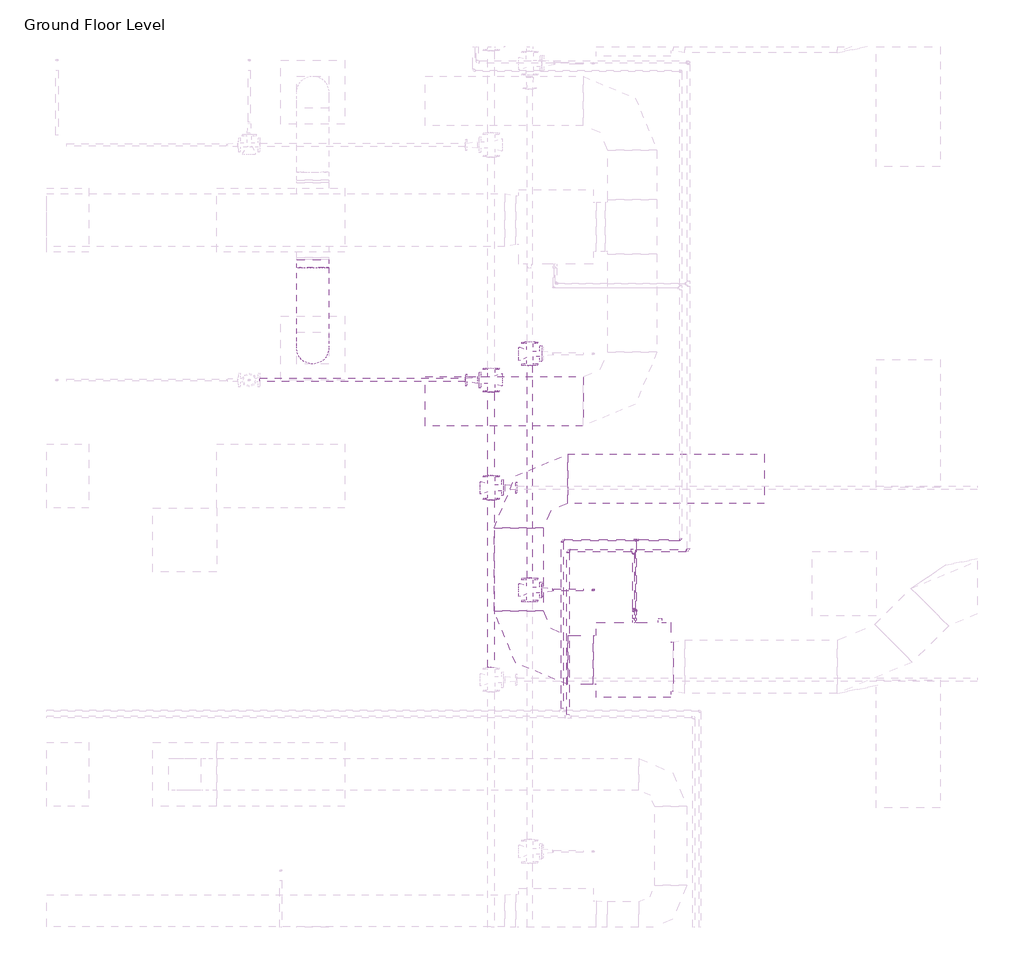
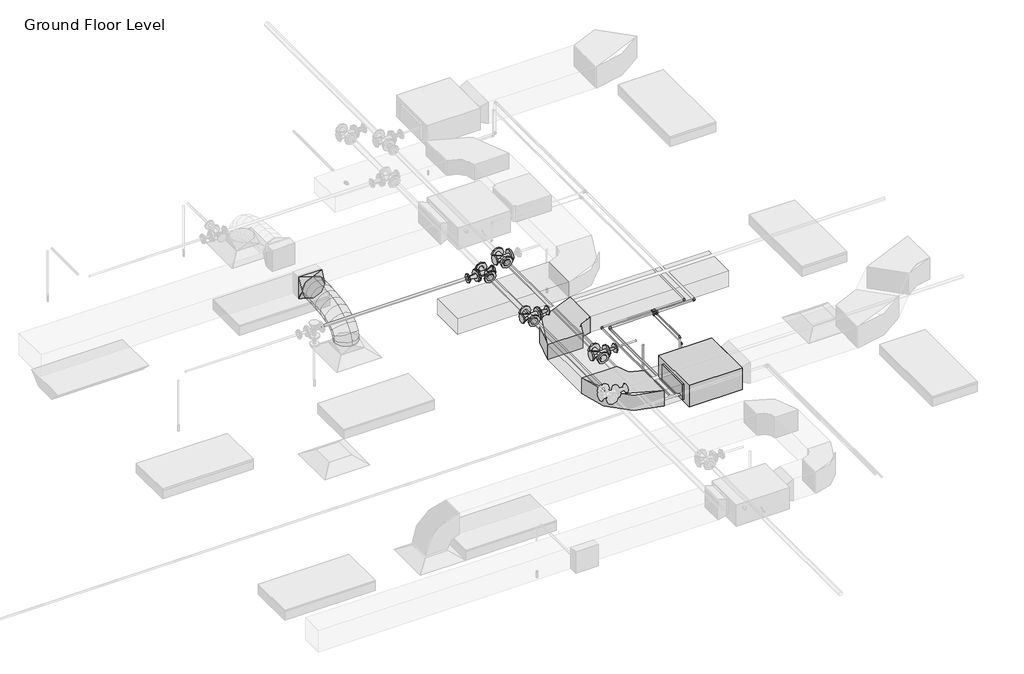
# One storey, part 60 of 74: 20 pipe fittings, 19 pipe segments, 5 duct segments, 3 duct fittings, 1 fire suppression terminal, 1 proxy.
"""IFC4 building model written with IfcOpenShell, lengths in millimetres."""

from ifc_helpers import new_model, si_unit, point, frame, frame_2d, origin, place, context, project, spatial, polyline, circle_curve, ellipse_curve, trimmed, segment, composite_curve, outline, extrude, transform, mapped, element, save
from ifc_brep_helpers import plane_surface, cylinder_surface, advanced_brep
from components import fcu_daikin_iu_bad131e0, m_rectangular_elbow_radius_1_w_54c96895, m_rectangular_to_round_transition_angle_45_degree_641efff0, m_sprinkler_pendent_15_mm_pendent_06fcbd8e, m_elbow_generic_standard_a088f956, m_elbow_generic_standard_2a704253, m_elbow_generic_standard_73005802, m_elbow_generic_standard_bb5ffebe, m_reducer_flanged_cs_class_150_standard_83138b42, m_reducer_flanged_cs_class_150_standard_a7631c35, m_reducer_flanged_cs_class_150_standard_5e9b2cee, m_tee_generic_standard_cdc1cff5, m_tee_generic_standard_bbfc025c, m_tee_round_base_flanged_cs_class_150_standard_dd767e04, m_tee_round_base_flanged_cs_class_150_standard_ab36f383, m_transition_generic_standard_e9aec4dd, m_transition_generic_standard_c2658a33

model = new_model("IFC4")

# Units and contexts
model_context = context("Model", 3, world=origin())
ifc_project = project(units=[si_unit("LENGTHUNIT", "METRE", prefix="MILLI")], contexts=[model_context])

# Site, building, storey
site = spatial("IfcSite", under=ifc_project)
building = spatial("IfcBuilding", under=site)
storey = spatial("IfcBuildingStorey", under=building, Name="Ground Floor Level", Elevation=900.0)

# Proxy
placement = place(None, origin())
fcu_daikin_iu_shape = fcu_daikin_iu_bad131e0(model_context)
element("IfcBuildingElementProxy", 1, Name="FCU-DAIKIN IU : 4.5kW, 230V/50Hz/1Ph", ObjectType="FCU-DAIKIN IU : 4.5kW, 230V/50Hz/1Ph", at=placement, inside=storey, context=model_context, shape_type="MappedRepresentation", body=[
    mapped(fcu_daikin_iu_shape, transform((6968.8139492, 9.6779527, 3934.0932729), x_axis=(0.0, 1.0, 0.0), y_axis=(-1.0, 0.0, 0.0), z_axis=(0.0, 0.0, 1.0))),
])

# Duct fittings
m_rectangular_elbow_radius_1_w_shape = m_rectangular_elbow_radius_1_w_54c96895(model_context)
element("IfcDuctFitting", 2, ObjectType="M_Rectangular Elbow - Radius : 1 W", at=placement, inside=storey, context=model_context, shape_type="MappedRepresentation", body=[
    mapped(m_rectangular_elbow_radius_1_w_shape, transform((5893.4139492, 9.6779527, 4075.2932729), x_axis=(0.0, -1.0, 0.0), y_axis=(1.0, 0.0, 0.0), z_axis=(0.0, 0.0, 1.0))),
])
element("IfcDuctFitting", 3, ObjectType="M_Rectangular Elbow - Radius : 1 W", at=placement, inside=storey, context=model_context, shape_type="MappedRepresentation", body=[
    mapped(m_rectangular_elbow_radius_1_w_shape, transform((5893.4139492, 1709.6783949, 4075.2932729), x_axis=(-1.0, 0.0, 0.0), y_axis=(0.0, -1.0, 0.0), z_axis=(0.0, 0.0, 1.0))),
])
m_rectangular_to_round_transition_angle_45_degree_shape = m_rectangular_to_round_transition_angle_45_degree_641efff0(model_context)
element("IfcDuctFitting", 4, ObjectType="M_Rectangular to Round Transition - Angle : 45 Degree", at=placement, inside=storey, context=model_context, shape_type="MappedRepresentation", body=[
    mapped(m_rectangular_to_round_transition_angle_45_degree_shape, transform((3962.7672395, 3762.5555369, 4099.9957478), x_axis=(0.0, -1.0, 0.0), y_axis=(1.0, 0.0, 0.0), z_axis=(0.0, 0.0, 1.0))),
])

# Duct segments
element("IfcDuctSegment", 5, ObjectType="Flex - Round", at=placement, inside=storey, context=model_context, shape_type="AdvancedBrep", body=[
    advanced_brep(
    [(4112.7672395, 2935.2153534, 3826.6), (3962.7672395, 2785.2153534, 3826.6), (3812.7672395, 2935.2153534, 3826.6), (3962.7672395, 3085.2153534, 3826.6), (4112.7672395, 2935.2153534, 3857.9378899), (3962.7672395, 2785.2153534, 3883.5813304), (3812.7672395, 2935.2153534, 3857.9378899), (3962.7672395, 3085.2153534, 3832.2944495), (4112.7672395, 2952.2314038, 3906.2506504), (3962.7672395, 2818.4936927, 3978.0667363), (3812.7672395, 2952.2314038, 3906.2506504), (3962.7672395, 3085.969115, 3834.4345644), (4112.7672395, 2999.4156052, 3968.7111185), (3962.7672395, 2895.2104338, 4079.6211427), (3812.7672395, 2999.4156052, 3968.7111185), (3962.7672395, 3103.6207766, 3857.8010943), (4112.7672395, 3070.9720324, 4016.0693384), (3962.7672395, 3002.0391237, 4150.3236188), (3812.7672395, 3070.9720324, 4016.0693384), (3962.7672395, 3139.9049411, 3881.8150579), (4112.7672395, 3161.1047605, 4050.413244), (3962.7672395, 3117.545251, 4194.3357287), (3812.7672395, 3161.1047605, 4050.413244), (3962.7672395, 3204.66427, 3906.4907592), (4112.7672395, 3264.0178643, 4073.8307693), (3962.7672395, 3237.4581287, 4221.6214946), (3812.7672395, 3264.0178643, 4073.8307693), (3962.7672395, 3290.5775999, 3926.0400441), (4112.7672395, 3373.9154189, 4088.4098484), (3962.7672395, 3358.7655495, 4237.7142137), (3812.7672395, 3373.9154189, 4088.4098484), (3962.7672395, 3389.0652883, 3939.1054831), (4112.7672395, 3485.0014992, 4096.2384151), (3962.7672395, 3477.4969747, 4246.0815706), (3812.7672395, 3485.0014992, 4096.2384151), (3962.7672395, 3492.5060238, 3946.3952596), (4112.7672395, 3591.4801802, 4099.4044036), (3962.7672395, 3588.7891594, 4249.3906816), (3812.7672395, 3591.4801802, 4099.4044036), (3962.7672395, 3594.1712011, 3949.4181256), (4112.7672395, 3687.5555369, 4099.9957478), (3962.7672395, 3688.47877, 3949.998589), (3812.7672395, 3687.5555369, 4099.9957478), (3962.7672395, 3686.6323039, 4249.9929065)],
    [
        (0, 1, circle_curve(frame((3962.7672395, 2935.2153534, 3826.6), z_axis=(0.0, 0.0, -1.0), x_axis=(1.0, 0.0, 0.0)), 150.0)),
        (1, 2, circle_curve(frame((3962.7672395, 2935.2153534, 3826.6), z_axis=(0.0, 0.0, -1.0), x_axis=(1.0, 0.0, 0.0)), 150.0)),
        (2, 3, circle_curve(frame((3962.7672395, 2935.2153534, 3826.6), z_axis=(0.0, 0.0, -1.0), x_axis=(1.0, 0.0, 0.0)), 150.0)),
        (3, 0, circle_curve(frame((3962.7672395, 2935.2153534, 3826.6), z_axis=(0.0, 0.0, -1.0), x_axis=(1.0, 0.0, 0.0)), 150.0)),
        (0, 4),
        (4, 5, ellipse_curve(frame((3962.7672395, 2935.2153534, 3857.9378899), z_axis=(0.0, -0.1685115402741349, -0.9856996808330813), x_axis=(0.0, 0.9856996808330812, -0.1685115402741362)), 152.1761678, 150.0)),
        (5, 1),
        (5, 6, ellipse_curve(frame((3962.7672395, 2935.2153534, 3857.9378899), z_axis=(0.0, -0.1685115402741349, -0.9856996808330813), x_axis=(0.0, 0.9856996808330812, -0.1685115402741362)), 152.1761678, 150.0)),
        (6, 2),
        (6, 7, ellipse_curve(frame((3962.7672395, 2935.2153534, 3857.9378899), z_axis=(0.0, -0.1685115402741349, -0.9856996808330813), x_axis=(0.0, 0.9856996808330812, -0.1685115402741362)), 152.1761678, 150.0)),
        (7, 3),
        (7, 4, ellipse_curve(frame((3962.7672395, 2935.2153534, 3857.9378899), z_axis=(0.0, -0.1685115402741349, -0.9856996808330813), x_axis=(0.0, 0.9856996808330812, -0.1685115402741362)), 152.1761678, 150.0)),
        (4, 8),
        (8, 9, ellipse_curve(frame((3962.7672395, 2952.2314038, 3906.2506504), z_axis=(0.0, -0.47309586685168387, -0.8810109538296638), x_axis=(0.0, 0.8810109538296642, -0.4730958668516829)), 151.8002819, 150.0)),
        (9, 5),
        (9, 10, ellipse_curve(frame((3962.7672395, 2952.2314038, 3906.2506504), z_axis=(0.0, -0.47309586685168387, -0.8810109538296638), x_axis=(0.0, 0.8810109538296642, -0.4730958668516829)), 151.8002819, 150.0)),
        (10, 6),
        (10, 11, ellipse_curve(frame((3962.7672395, 2952.2314038, 3906.2506504), z_axis=(0.0, -0.47309586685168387, -0.8810109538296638), x_axis=(0.0, 0.8810109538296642, -0.4730958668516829)), 151.8002819, 150.0)),
        (11, 7),
        (11, 8, ellipse_curve(frame((3962.7672395, 2952.2314038, 3906.2506504), z_axis=(0.0, -0.47309586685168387, -0.8810109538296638), x_axis=(0.0, 0.8810109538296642, -0.4730958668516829)), 151.8002819, 150.0)),
        (8, 12),
        (12, 13, ellipse_curve(frame((3962.7672395, 2999.4156052, 3968.7111185), z_axis=(0.0, -0.7287924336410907, -0.68473468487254), x_axis=(0.0, 0.6847346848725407, -0.7287924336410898)), 152.1832817, 150.0)),
        (13, 9),
        (13, 14, ellipse_curve(frame((3962.7672395, 2999.4156052, 3968.7111185), z_axis=(0.0, -0.7287924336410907, -0.68473468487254), x_axis=(0.0, 0.6847346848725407, -0.7287924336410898)), 152.1832817, 150.0)),
        (14, 10),
        (14, 15, ellipse_curve(frame((3962.7672395, 2999.4156052, 3968.7111185), z_axis=(0.0, -0.7287924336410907, -0.68473468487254), x_axis=(0.0, 0.6847346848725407, -0.7287924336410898)), 152.1832817, 150.0)),
        (15, 11),
        (15, 12, ellipse_curve(frame((3962.7672395, 2999.4156052, 3968.7111185), z_axis=(0.0, -0.7287924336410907, -0.68473468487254), x_axis=(0.0, 0.6847346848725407, -0.7287924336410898)), 152.1832817, 150.0)),
        (12, 16),
        (16, 17, ellipse_curve(frame((3962.7672395, 3070.9720324, 4016.0693384), z_axis=(0.0, -0.8895898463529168, -0.4567602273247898), x_axis=(0.0, 0.45676022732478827, -0.8895898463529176)), 150.9170558, 150.0)),
        (17, 13),
        (17, 18, ellipse_curve(frame((3962.7672395, 3070.9720324, 4016.0693384), z_axis=(0.0, -0.8895898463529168, -0.4567602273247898), x_axis=(0.0, 0.45676022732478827, -0.8895898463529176)), 150.9170558, 150.0)),
        (18, 14),
        (18, 19, ellipse_curve(frame((3962.7672395, 3070.9720324, 4016.0693384), z_axis=(0.0, -0.8895898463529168, -0.4567602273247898), x_axis=(0.0, 0.45676022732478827, -0.8895898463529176)), 150.9170558, 150.0)),
        (19, 15),
        (19, 16, ellipse_curve(frame((3962.7672395, 3070.9720324, 4016.0693384), z_axis=(0.0, -0.8895898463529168, -0.4567602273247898), x_axis=(0.0, 0.45676022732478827, -0.8895898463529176)), 150.9170558, 150.0)),
        (16, 20),
        (20, 21, ellipse_curve(frame((3962.7672395, 3161.1047605, 4050.413244), z_axis=(0.0, -0.9571228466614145, -0.28968233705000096), x_axis=(0.0, 0.2896823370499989, -0.9571228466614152)), 150.3699188, 150.0)),
        (21, 17),
        (21, 22, ellipse_curve(frame((3962.7672395, 3161.1047605, 4050.413244), z_axis=(0.0, -0.9571228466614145, -0.28968233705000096), x_axis=(0.0, 0.2896823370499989, -0.9571228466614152)), 150.3699188, 150.0)),
        (22, 18),
        (22, 23, ellipse_curve(frame((3962.7672395, 3161.1047605, 4050.413244), z_axis=(0.0, -0.9571228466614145, -0.28968233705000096), x_axis=(0.0, 0.2896823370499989, -0.9571228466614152)), 150.3699188, 150.0)),
        (23, 19),
        (23, 20, ellipse_curve(frame((3962.7672395, 3161.1047605, 4050.413244), z_axis=(0.0, -0.9571228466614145, -0.28968233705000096), x_axis=(0.0, 0.2896823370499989, -0.9571228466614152)), 150.3699188, 150.0)),
        (20, 24),
        (24, 25, ellipse_curve(frame((3962.7672395, 3264.0178643, 4073.8307693), z_axis=(0.0, -0.9842327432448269, -0.17687822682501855), x_axis=(0.0, 0.17687822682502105, -0.9842327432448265)), 150.1583099, 150.0)),
        (25, 21),
        (25, 26, ellipse_curve(frame((3962.7672395, 3264.0178643, 4073.8307693), z_axis=(0.0, -0.9842327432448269, -0.17687822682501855), x_axis=(0.0, 0.17687822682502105, -0.9842327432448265)), 150.1583099, 150.0)),
        (26, 22),
        (26, 27, ellipse_curve(frame((3962.7672395, 3264.0178643, 4073.8307693), z_axis=(0.0, -0.9842327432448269, -0.17687822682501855), x_axis=(0.0, 0.17687822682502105, -0.9842327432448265)), 150.1583099, 150.0)),
        (27, 23),
        (27, 24, ellipse_curve(frame((3962.7672395, 3264.0178643, 4073.8307693), z_axis=(0.0, -0.9842327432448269, -0.17687822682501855), x_axis=(0.0, 0.17687822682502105, -0.9842327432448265)), 150.1583099, 150.0)),
        (24, 28),
        (28, 29, ellipse_curve(frame((3962.7672395, 3373.9154189, 4088.4098484), z_axis=(0.0, -0.9948913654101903, -0.10095133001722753), x_axis=(0.0, 0.10095133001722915, -0.9948913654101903)), 150.0710233, 150.0)),
        (29, 25),
        (29, 30, ellipse_curve(frame((3962.7672395, 3373.9154189, 4088.4098484), z_axis=(0.0, -0.9948913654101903, -0.10095133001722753), x_axis=(0.0, 0.10095133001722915, -0.9948913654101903)), 150.0710233, 150.0)),
        (30, 26),
        (30, 31, ellipse_curve(frame((3962.7672395, 3373.9154189, 4088.4098484), z_axis=(0.0, -0.9948913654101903, -0.10095133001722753), x_axis=(0.0, 0.10095133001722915, -0.9948913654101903)), 150.0710233, 150.0)),
        (31, 27),
        (31, 28, ellipse_curve(frame((3962.7672395, 3373.9154189, 4088.4098484), z_axis=(0.0, -0.9948913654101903, -0.10095133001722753), x_axis=(0.0, 0.10095133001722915, -0.9948913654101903)), 150.0710233, 150.0)),
        (28, 32),
        (32, 33, ellipse_curve(frame((3962.7672395, 3485.0014992, 4096.2384151), z_axis=(0.0, -0.9987482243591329, -0.05001983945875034), x_axis=(0.0, 0.05001983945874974, -0.9987482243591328)), 150.0309606, 150.0)),
        (33, 29),
        (33, 34, ellipse_curve(frame((3962.7672395, 3485.0014992, 4096.2384151), z_axis=(0.0, -0.9987482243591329, -0.05001983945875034), x_axis=(0.0, 0.05001983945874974, -0.9987482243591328)), 150.0309606, 150.0)),
        (34, 30),
        (34, 35, ellipse_curve(frame((3962.7672395, 3485.0014992, 4096.2384151), z_axis=(0.0, -0.9987482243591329, -0.05001983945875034), x_axis=(0.0, 0.05001983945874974, -0.9987482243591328)), 150.0309606, 150.0)),
        (35, 31),
        (35, 32, ellipse_curve(frame((3962.7672395, 3485.0014992, 4096.2384151), z_axis=(0.0, -0.9987482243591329, -0.05001983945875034), x_axis=(0.0, 0.05001983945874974, -0.9987482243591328)), 150.0309606, 150.0)),
        (32, 36),
        (36, 37, ellipse_curve(frame((3962.7672395, 3591.4801802, 4099.4044036), z_axis=(0.0, -0.9998390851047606, -0.017938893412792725), x_axis=(0.0, 0.017938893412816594, -0.99983908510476)), 150.0104169, 150.0)),
        (37, 33),
        (37, 38, ellipse_curve(frame((3962.7672395, 3591.4801802, 4099.4044036), z_axis=(0.0, -0.9998390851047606, -0.017938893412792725), x_axis=(0.0, 0.017938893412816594, -0.99983908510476)), 150.0104169, 150.0)),
        (38, 34),
        (38, 39, ellipse_curve(frame((3962.7672395, 3591.4801802, 4099.4044036), z_axis=(0.0, -0.9998390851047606, -0.017938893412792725), x_axis=(0.0, 0.017938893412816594, -0.99983908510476)), 150.0104169, 150.0)),
        (39, 35),
        (39, 36, ellipse_curve(frame((3962.7672395, 3591.4801802, 4099.4044036), z_axis=(0.0, -0.9998390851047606, -0.017938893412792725), x_axis=(0.0, 0.017938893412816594, -0.99983908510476)), 150.0104169, 150.0)),
        (40, 41, circle_curve(frame((3962.7672395, 3687.5555369, 4099.9957478), z_axis=(0.0, 0.9999810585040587, 0.006154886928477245), x_axis=(1.0, 0.0, 0.0)), 150.0)),
        (41, 42, circle_curve(frame((3962.7672395, 3687.5555369, 4099.9957478), z_axis=(0.0, 0.9999810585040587, 0.006154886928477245), x_axis=(1.0, 0.0, 0.0)), 150.0)),
        (42, 43, circle_curve(frame((3962.7672395, 3687.5555369, 4099.9957478), z_axis=(0.0, 0.9999810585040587, 0.006154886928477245), x_axis=(1.0, 0.0, 0.0)), 150.0)),
        (43, 40, circle_curve(frame((3962.7672395, 3687.5555369, 4099.9957478), z_axis=(0.0, 0.9999810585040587, 0.006154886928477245), x_axis=(1.0, 0.0, 0.0)), 150.0)),
        (36, 40),
        (43, 37),
        (42, 38),
        (41, 39),
    ],
    [
        plane_surface(frame((3962.7672395, 2785.2153534, 3826.6), z_axis=(0.0, 0.0, -1.0), x_axis=(1.0, 0.0, 0.0))),
        cylinder_surface(frame((3962.7672395, 2935.2153534, 3826.6), z_axis=(0.0, 0.0, -1.0), x_axis=(1.0, 0.0, 0.0)), 150.0),
        cylinder_surface(frame((3962.7672395, 2935.2153534, 3857.9378899), z_axis=(0.0, -0.33220354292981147, -0.9432077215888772), x_axis=(1.0, 0.0, 0.0)), 150.0),
        cylinder_surface(frame((3962.7672395, 2952.2314038, 3906.2506504), z_axis=(0.0, -0.6027667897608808, -0.7979174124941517), x_axis=(1.0, 0.0, 0.0)), 150.0),
        cylinder_surface(frame((3962.7672395, 2999.4156052, 3968.7111185), z_axis=(0.0, -0.833906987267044, -0.5519050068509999), x_axis=(1.0, 0.0, 0.0)), 150.0),
        cylinder_surface(frame((3962.7672395, 3070.9720324, 4016.0693384), z_axis=(0.0, -0.9344614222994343, -0.35606439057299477), x_axis=(1.0, 0.0, 0.0)), 150.0),
        cylinder_surface(frame((3962.7672395, 3161.1047605, 4050.413244), z_axis=(0.0, -0.9750751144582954, -0.22187501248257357), x_axis=(1.0, 0.0, 0.0)), 150.0),
        cylinder_surface(frame((3962.7672395, 3264.0178643, 4073.8307693), z_axis=(0.0, -0.9913150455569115, -0.1315084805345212), x_axis=(1.0, 0.0, 0.0)), 150.0),
        cylinder_surface(frame((3962.7672395, 3373.9154189, 4088.4098484), z_axis=(0.0, -0.997525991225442, -0.07029862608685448), x_axis=(1.0, 0.0, 0.0)), 150.0),
        cylinder_surface(frame((3962.7672395, 3485.0014992, 4096.2384151), z_axis=(0.0, -0.9995582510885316, -0.029720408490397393), x_axis=(1.0, 0.0, 0.0)), 150.0),
        plane_surface(frame((3962.7672395, 3686.6323039, 4249.9929065), z_axis=(0.0, 0.9999810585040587, 0.006154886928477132), x_axis=(1.0, 0.0, 0.0))),
        cylinder_surface(frame((3962.7672395, 3591.4801802, 4099.4044036), z_axis=(0.0, -0.9999810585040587, -0.006154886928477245), x_axis=(1.0, 0.0, 0.0)), 150.0),
    ],
    [
        (0, [[1, 2, 3, 4]]),
        (1, [[-1, 5, 6, 7]]),
        (1, [[-2, -7, 8, 9]]),
        (1, [[-3, -9, 10, 11]]),
        (1, [[-4, -11, 12, -5]]),
        (2, [[-6, 13, 14, 15]]),
        (2, [[-8, -15, 16, 17]]),
        (2, [[-10, -17, 18, 19]]),
        (2, [[-12, -19, 20, -13]]),
        (3, [[-14, 21, 22, 23]]),
        (3, [[-16, -23, 24, 25]]),
        (3, [[-18, -25, 26, 27]]),
        (3, [[-20, -27, 28, -21]]),
        (4, [[-22, 29, 30, 31]]),
        (4, [[-24, -31, 32, 33]]),
        (4, [[-26, -33, 34, 35]]),
        (4, [[-28, -35, 36, -29]]),
        (5, [[-30, 37, 38, 39]]),
        (5, [[-32, -39, 40, 41]]),
        (5, [[-34, -41, 42, 43]]),
        (5, [[-36, -43, 44, -37]]),
        (6, [[-38, 45, 46, 47]]),
        (6, [[-40, -47, 48, 49]]),
        (6, [[-42, -49, 50, 51]]),
        (6, [[-44, -51, 52, -45]]),
        (7, [[-46, 53, 54, 55]]),
        (7, [[-48, -55, 56, 57]]),
        (7, [[-50, -57, 58, 59]]),
        (7, [[-52, -59, 60, -53]]),
        (8, [[-54, 61, 62, 63]]),
        (8, [[-56, -63, 64, 65]]),
        (8, [[-58, -65, 66, 67]]),
        (8, [[-60, -67, 68, -61]]),
        (9, [[-62, 69, 70, 71]]),
        (9, [[-64, -71, 72, 73]]),
        (9, [[-66, -73, 74, 75]]),
        (9, [[-68, -75, 76, -69]]),
        (10, [[77, 78, 79, 80]]),
        (11, [[-70, 81, -80, 82]]),
        (11, [[-72, -82, -79, 83]]),
        (11, [[-74, -83, -78, 84]]),
        (11, [[-76, -84, -77, -81]]),
    ],
),
])
element("IfcDuctSegment", 6, ObjectType="Radius Elbows / Taps", at=placement, inside=storey, context=model_context, shape_type="SweptSolid", body=[
    extrude(outline(polyline([(6593.4139492, 240.6154527), (6593.4139492, -221.2595473), (6355.2889492, -221.2595473), (6355.2889492, 240.6154527), (6593.4139492, 240.6154527)])), frame((0.0, 0.0, 3968.1432729), z_axis=(0.0, 0.0, 1.0), x_axis=(1.0, 0.0, 0.0)), (0.0, 0.0, 1.0), 214.3),
])
element("IfcDuctSegment", 7, ObjectType="Radius Elbows / Taps", at=placement, inside=storey, context=model_context, shape_type="SweptSolid", body=[
    extrude(outline(polyline([(6124.3514492, 471.5529527), (5662.4764492, 471.5529527), (5662.4764492, 1247.8033949), (6124.3514492, 1247.8033949), (6124.3514492, 471.5529527)])), frame((0.0, 0.0, 3968.1432729), z_axis=(0.0, 0.0, 1.0), x_axis=(1.0, 0.0, 0.0)), (0.0, 0.0, 1.0), 214.3),
])
element("IfcDuctSegment", 8, ObjectType="Radius Elbows / Taps", at=placement, inside=storey, context=model_context, shape_type="SweptSolid", body=[
    extrude(outline(polyline([(6355.2889492, 1478.7408949), (6355.2889492, 1940.6158949), (8193.4139492, 1940.6158949), (8193.4139492, 1478.7408949), (6355.2889492, 1478.7408949)])), frame((0.0, 0.0, 3968.1432729), z_axis=(0.0, 0.0, 1.0), x_axis=(1.0, 0.0, 0.0)), (0.0, 0.0, 1.0), 214.3),
])
element("IfcDuctSegment", 9, ObjectType="Radius Elbows / Taps", at=placement, inside=storey, context=model_context, shape_type="SweptSolid", body=[
    extrude(outline(polyline([(6496.8139492, 2666.5824167), (6496.8139492, 2204.5824167), (5018.8139492, 2204.5824167), (5018.8139492, 2666.5824167), (6496.8139492, 2666.5824167)])), frame((0.0, 0.0, 3968.2875), z_axis=(0.0, 0.0, 1.0), x_axis=(1.0, 0.0, 0.0)), (0.0, 0.0, 1.0), 214.0),
])

# Fire suppression terminal
m_sprinkler_pendent_15_mm_pendent_shape = m_sprinkler_pendent_15_mm_pendent_06fcbd8e(model_context)
element("IfcFireSuppressionTerminal", 10, ObjectType="M_Sprinkler - Pendent : 15 mm Pendent", at=placement, inside=storey, context=model_context, shape_type="MappedRepresentation", body=[
    mapped(m_sprinkler_pendent_15_mm_pendent_shape, transform((6592.5481019, 666.6492065, 3650.0), x_axis=(1.0, 0.0, 0.0), y_axis=(0.0, 1.0, 0.0), z_axis=(0.0, 0.0, 1.0))),
])

# Pipe fittings
m_elbow_generic_standard_shape = m_elbow_generic_standard_a088f956(model_context)
element("IfcPipeFitting", 11, ObjectType="M_Elbow - Generic : Standard", at=placement, inside=storey, context=model_context, shape_type="MappedRepresentation", body=[
    mapped(m_elbow_generic_standard_shape, transform((6968.8139492, 477.4658847, 4034.0932729), x_axis=(0.0, 1.0, 0.0), y_axis=(0.0, 0.0, 1.0), z_axis=(1.0, 0.0, 0.0))),
])
element("IfcPipeFitting", 12, ObjectType="M_Elbow - Generic : Standard", at=placement, inside=storey, context=model_context, shape_type="MappedRepresentation", body=[
    mapped(m_elbow_generic_standard_shape, transform((6968.8139492, 477.4658847, 4300.0), x_axis=(0.0, 0.0, 1.0), y_axis=(0.0, 1.0, 0.0), z_axis=(-1.0, 0.0, 0.0))),
])
m_elbow_generic_standard_2_shape = m_elbow_generic_standard_2a704253(model_context)
element("IfcPipeFitting", 13, ObjectType="M_Elbow - Generic : Standard", at=placement, inside=storey, context=model_context, shape_type="MappedRepresentation", body=[
    mapped(m_elbow_generic_standard_2_shape, transform((6993.8139492, 474.3157767, 4084.8932729), x_axis=(0.0, 1.0, 0.0), y_axis=(0.0, 0.0, 1.0), z_axis=(1.0, 0.0, 0.0))),
])
element("IfcPipeFitting", 14, ObjectType="M_Elbow - Generic : Standard", at=placement, inside=storey, context=model_context, shape_type="MappedRepresentation", body=[
    mapped(m_elbow_generic_standard_2_shape, transform((6993.8139492, 474.3157767, 4200.0), x_axis=(0.0, 0.0, 1.0), y_axis=(0.0, 1.0, 0.0), z_axis=(-1.0, 0.0, 0.0))),
])
element("IfcPipeFitting", 15, ObjectType="M_Elbow - Generic : Standard", at=placement, inside=storey, context=model_context, shape_type="MappedRepresentation", body=[
    mapped(m_elbow_generic_standard_2_shape, transform((6993.8139492, 1134.0185138, 4200.0), x_axis=(0.0, 0.0, -1.0), y_axis=(0.0, -1.0, 0.0), z_axis=(-1.0, 0.0, 0.0))),
])
m_elbow_generic_standard_3_shape = m_elbow_generic_standard_73005802(model_context)
element("IfcPipeFitting", 16, ObjectType="M_Elbow - Generic : Standard", at=placement, inside=storey, context=model_context, shape_type="MappedRepresentation", body=[
    mapped(m_elbow_generic_standard_3_shape, transform((6355.3210494, 1036.0098545, 4300.0), x_axis=(-1.0, 0.0, 0.0), y_axis=(0.0, -1.0, 0.0), z_axis=(0.0, 0.0, 1.0))),
])
element("IfcPipeFitting", 17, ObjectType="M_Elbow - Generic : Standard", at=placement, inside=storey, context=model_context, shape_type="MappedRepresentation", body=[
    mapped(m_elbow_generic_standard_3_shape, transform((7485.0672395, 1036.0098545, 4300.0), x_axis=(1.0, 0.0, 0.0), y_axis=(0.0, 1.0, 0.0), z_axis=(0.0, 0.0, 1.0))),
])
m_elbow_generic_standard_4_shape = m_elbow_generic_standard_bb5ffebe(model_context)
element("IfcPipeFitting", 18, ObjectType="M_Elbow - Generic : Standard", at=placement, inside=storey, context=model_context, shape_type="MappedRepresentation", body=[
    mapped(m_elbow_generic_standard_4_shape, transform((6302.4595152, 1134.0185138, 4265.0), x_axis=(-1.0, 0.0, 0.0), y_axis=(0.0, -1.0, 0.0), z_axis=(0.0, 0.0, 1.0))),
])
element("IfcPipeFitting", 19, ObjectType="M_Elbow - Generic : Standard", at=placement, inside=storey, context=model_context, shape_type="MappedRepresentation", body=[
    mapped(m_elbow_generic_standard_4_shape, transform((7412.2057053, 1134.0185138, 4265.0), x_axis=(1.0, 0.0, 0.0), y_axis=(0.0, 1.0, 0.0), z_axis=(0.0, 0.0, 1.0))),
])
m_reducer_flanged_cs_class_150_standard_shape = m_reducer_flanged_cs_class_150_standard_83138b42(model_context)
element("IfcPipeFitting", 20, ObjectType="M_Reducer - Flanged - CS - Class 150 : Standard", at=placement, inside=storey, context=model_context, shape_type="MappedRepresentation", body=[
    mapped(m_reducer_flanged_cs_class_150_standard_shape, transform((6109.3164057, 666.6492065, 4291.2754753), x_axis=(1.0, 0.0, 0.0), y_axis=(0.0, 0.0, -1.0), z_axis=(0.0, 1.0, 0.0))),
])
m_reducer_flanged_cs_class_150_standard_2_shape = m_reducer_flanged_cs_class_150_standard_a7631c35(model_context)
element("IfcPipeFitting", 21, ObjectType="M_Reducer - Flanged - CS - Class 150 : Standard", at=placement, inside=storey, context=model_context, shape_type="MappedRepresentation", body=[
    mapped(m_reducer_flanged_cs_class_150_standard_2_shape, transform((5749.869498, 1625.2153534, 4360.0), x_axis=(1.0, 0.0, 0.0), y_axis=(0.0, 0.0, 1.0), z_axis=(0.0, -1.0, 0.0))),
])
m_reducer_flanged_cs_class_150_standard_3_shape = m_reducer_flanged_cs_class_150_standard_5e9b2cee(model_context)
element("IfcPipeFitting", 22, ObjectType="M_Reducer - Flanged - CS - Class 150 : Standard", at=placement, inside=storey, context=model_context, shape_type="MappedRepresentation", body=[
    mapped(m_reducer_flanged_cs_class_150_standard_3_shape, transform((5521.869498, 2635.2153534, 4360.0), x_axis=(-1.0, 0.0, 0.0), y_axis=(0.0, 0.0, -1.0), z_axis=(0.0, -1.0, 0.0))),
])
m_tee_generic_standard_shape = m_tee_generic_standard_cdc1cff5(model_context)
element("IfcPipeFitting", 23, ObjectType="M_Tee - Generic : Standard", at=placement, inside=storey, context=model_context, shape_type="MappedRepresentation", body=[
    mapped(m_tee_generic_standard_shape, transform((6993.8139492, 1134.0185138, 4265.0), x_axis=(1.0, 0.0, 0.0), y_axis=(0.0, 0.0, 1.0), z_axis=(0.0, -1.0, 0.0))),
])
m_tee_generic_standard_2_shape = m_tee_generic_standard_bbfc025c(model_context)
element("IfcPipeFitting", 24, ObjectType="M_Tee - Generic : Standard", at=placement, inside=storey, context=model_context, shape_type="MappedRepresentation", body=[
    mapped(m_tee_generic_standard_2_shape, transform((6968.8139492, 1036.0098545, 4300.0), x_axis=(1.0, 0.0, 0.0), y_axis=(0.0, 1.0, 0.0), z_axis=(0.0, 0.0, 1.0))),
])
m_tee_round_base_flanged_cs_class_150_standard_shape = m_tee_round_base_flanged_cs_class_150_standard_dd767e04(model_context)
element("IfcPipeFitting", 25, ObjectType="M_Tee Round Base - Flanged - CS - Class 150 : Standard", at=placement, inside=storey, context=model_context, shape_type="MappedRepresentation", body=[
    mapped(m_tee_round_base_flanged_cs_class_150_standard_shape, transform((5635.869498, 1625.2153534, 4360.0), x_axis=(0.0, 1.0, 0.0), y_axis=(-1.0, 0.0, 0.0), z_axis=(0.0, 0.0, 1.0))),
])
element("IfcPipeFitting", 26, ObjectType="M_Tee Round Base - Flanged - CS - Class 150 : Standard", at=placement, inside=storey, context=model_context, shape_type="MappedRepresentation", body=[
    mapped(m_tee_round_base_flanged_cs_class_150_standard_shape, transform((5635.869498, 2635.2153534, 4360.0), x_axis=(0.0, 1.0, 0.0), y_axis=(1.0, 0.0, 0.0), z_axis=(0.0, 0.0, -1.0))),
])
m_tee_round_base_flanged_cs_class_150_standard_2_shape = m_tee_round_base_flanged_cs_class_150_standard_ab36f383(model_context)
element("IfcPipeFitting", 27, ObjectType="M_Tee Round Base - Flanged - CS - Class 150 : Standard", at=placement, inside=storey, context=model_context, shape_type="MappedRepresentation", body=[
    mapped(m_tee_round_base_flanged_cs_class_150_standard_2_shape, transform((5997.057812, 2881.5134565, 4291.0943441), x_axis=(0.0, 1.0, 0.0), y_axis=(-1.0, 0.0, 0.0), z_axis=(0.0, 0.0, 1.0))),
])
element("IfcPipeFitting", 28, ObjectType="M_Tee Round Base - Flanged - CS - Class 150 : Standard", at=placement, inside=storey, context=model_context, shape_type="MappedRepresentation", body=[
    mapped(m_tee_round_base_flanged_cs_class_150_standard_2_shape, transform((5997.057812, 666.6492065, 4291.0943441), x_axis=(0.0, 1.0, 0.0), y_axis=(-1.0, 0.0, 0.0), z_axis=(0.0, 0.0, 1.0))),
])
m_transition_generic_standard_shape = m_transition_generic_standard_e9aec4dd(model_context)
element("IfcPipeFitting", 29, ObjectType="M_Transition - Generic : Standard", at=placement, inside=storey, context=model_context, shape_type="MappedRepresentation", body=[
    mapped(m_transition_generic_standard_shape, transform((6968.8139492, 1010.6098545, 4300.0), x_axis=(0.0, -1.0, 0.0), y_axis=(1.0, 0.0, 0.0), z_axis=(0.0, 0.0, 1.0))),
])
m_transition_generic_standard_2_shape = m_transition_generic_standard_c2658a33(model_context)
element("IfcPipeFitting", 30, ObjectType="M_Transition - Generic : Standard", at=placement, inside=storey, context=model_context, shape_type="MappedRepresentation", body=[
    mapped(m_transition_generic_standard_2_shape, transform((6993.8139492, 1134.0185138, 4242.775), x_axis=(0.0, 0.0, -1.0), y_axis=(1.0, 0.0, 0.0), z_axis=(0.0, -1.0, 0.0))),
])

# Pipe segments
element("IfcPipeSegment", 31, ObjectType="Copper", at=placement, inside=storey, context=model_context, shape_type="SweptSolid", body=[
    extrude(outline(composite_curve([segment(trimmed(circle_curve(frame_2d((4265.0, 6302.4595152)), 8.1), [point((4265.0, 6294.3595152))], [point((4256.9, 6302.4595152))], False, "CARTESIAN"), True, "CONTINUOUS"), segment(trimmed(circle_curve(frame_2d((4265.0, 6302.4595152)), 8.1), [point((4256.9, 6302.4595152))], [point((4265.0, 6310.5595152))], False, "CARTESIAN"), True, "CONTINUOUS"), segment(trimmed(circle_curve(frame_2d((4265.0, 6302.4595152)), 8.1), [point((4265.0, 6310.5595152))], [point((4273.1, 6302.4595152))], False, "CARTESIAN"), True, "CONTINUOUS"), segment(trimmed(circle_curve(frame_2d((4265.0, 6302.4595152)), 8.1), [point((4273.1, 6302.4595152))], [point((4265.0, 6294.3595152))], False, "CARTESIAN"), True, "CONTINUOUS")], self_intersect=False)), frame((0.0, -443.7564862, 0.0), z_axis=(0.0, 1.0, 0.0), x_axis=(0.0, 0.0, 1.0)), (0.0, 0.0, 1.0), 1561.9),
])
element("IfcPipeSegment", 32, ObjectType="Copper", at=placement, inside=storey, context=model_context, shape_type="SweptSolid", body=[
    extrude(outline(composite_curve([segment(trimmed(circle_curve(frame_2d((4300.0, 6355.3210494)), 11.5), [point((4300.0, 6343.8210494))], [point((4288.5, 6355.3210494))], False, "CARTESIAN"), True, "CONTINUOUS"), segment(trimmed(circle_curve(frame_2d((4300.0, 6355.3210494)), 11.5), [point((4288.5, 6355.3210494))], [point((4300.0, 6366.8210494))], False, "CARTESIAN"), True, "CONTINUOUS"), segment(trimmed(circle_curve(frame_2d((4300.0, 6355.3210494)), 11.5), [point((4300.0, 6366.8210494))], [point((4311.5, 6355.3210494))], False, "CARTESIAN"), True, "CONTINUOUS"), segment(trimmed(circle_curve(frame_2d((4300.0, 6355.3210494)), 11.5), [point((4311.5, 6355.3210494))], [point((4300.0, 6343.8210494))], False, "CARTESIAN"), True, "CONTINUOUS")], self_intersect=False)), frame((0.0, -498.5901455, 0.0), z_axis=(0.0, 1.0, 0.0), x_axis=(0.0, 0.0, 1.0)), (0.0, 0.0, 1.0), 1515.55),
])
element("IfcPipeSegment", 33, ObjectType="Copper", at=placement, inside=storey, context=model_context, shape_type="SweptSolid", body=[
    extrude(outline(composite_curve([segment(trimmed(circle_curve(frame_2d((4200.0, 6993.8139492)), 3.35), [point((4200.0, 6997.1639492))], [point((4203.35, 6993.8139492))], False, "CARTESIAN"), True, "CONTINUOUS"), segment(trimmed(circle_curve(frame_2d((4200.0, 6993.8139492)), 3.35), [point((4203.35, 6993.8139492))], [point((4200.0, 6990.4639492))], False, "CARTESIAN"), True, "CONTINUOUS"), segment(trimmed(circle_curve(frame_2d((4200.0, 6993.8139492)), 3.35), [point((4200.0, 6990.4639492))], [point((4196.65, 6993.8139492))], False, "CARTESIAN"), True, "CONTINUOUS"), segment(trimmed(circle_curve(frame_2d((4200.0, 6993.8139492)), 3.35), [point((4196.65, 6993.8139492))], [point((4200.0, 6997.1639492))], False, "CARTESIAN"), True, "CONTINUOUS")], self_intersect=False)), frame((0.0, 485.4532767, 0.0), z_axis=(0.0, 1.0, 0.0), x_axis=(0.0, 0.0, 1.0)), (0.0, 0.0, 1.0), 637.4277371),
])
element("IfcPipeSegment", 34, ObjectType="Copper", at=placement, inside=storey, context=model_context, shape_type="SweptSolid", body=[
    extrude(outline(composite_curve([segment(trimmed(circle_curve(frame_2d((4300.0, 6968.8139492)), 6.5), [point((4300.0, 6962.3139492))], [point((4293.5, 6968.8139492))], False, "CARTESIAN"), True, "CONTINUOUS"), segment(trimmed(circle_curve(frame_2d((4300.0, 6968.8139492)), 6.5), [point((4293.5, 6968.8139492))], [point((4300.0, 6975.3139492))], False, "CARTESIAN"), True, "CONTINUOUS"), segment(trimmed(circle_curve(frame_2d((4300.0, 6968.8139492)), 6.5), [point((4300.0, 6975.3139492))], [point((4306.5, 6968.8139492))], False, "CARTESIAN"), True, "CONTINUOUS"), segment(trimmed(circle_curve(frame_2d((4300.0, 6968.8139492)), 6.5), [point((4306.5, 6968.8139492))], [point((4300.0, 6962.3139492))], False, "CARTESIAN"), True, "CONTINUOUS")], self_intersect=False)), frame((0.0, 491.7533847, 0.0), z_axis=(0.0, 1.0, 0.0), x_axis=(0.0, 0.0, 1.0)), (0.0, 0.0, 1.0), 512.5064698),
])
element("IfcPipeSegment", 35, ObjectType="Copper", at=placement, inside=storey, context=model_context, shape_type="SweptSolid", body=[
    extrude(outline(composite_curve([segment(trimmed(circle_curve(frame_2d((1134.0185138, 4265.0)), 8.1), [point((1142.1185138, 4265.0))], [point((1134.0185138, 4256.9))], False, "CARTESIAN"), True, "CONTINUOUS"), segment(trimmed(circle_curve(frame_2d((1134.0185138, 4265.0)), 8.1), [point((1134.0185138, 4256.9))], [point((1125.9185138, 4265.0))], False, "CARTESIAN"), True, "CONTINUOUS"), segment(trimmed(circle_curve(frame_2d((1134.0185138, 4265.0)), 8.1), [point((1125.9185138, 4265.0))], [point((1134.0185138, 4273.1))], False, "CARTESIAN"), True, "CONTINUOUS"), segment(trimmed(circle_curve(frame_2d((1134.0185138, 4265.0)), 8.1), [point((1134.0185138, 4273.1))], [point((1142.1185138, 4265.0))], False, "CARTESIAN"), True, "CONTINUOUS")], self_intersect=False)), frame((6318.3345152, 0.0, 0.0), z_axis=(1.0, 0.0, 0.0), x_axis=(0.0, 1.0, 0.0)), (0.0, 0.0, 1.0), 653.254434),
])
element("IfcPipeSegment", 36, ObjectType="Copper", at=placement, inside=storey, context=model_context, shape_type="SweptSolid", body=[
    extrude(outline(composite_curve([segment(trimmed(circle_curve(frame_2d((1036.0098545, 4300.0)), 11.5), [point((1047.5098545, 4300.0))], [point((1036.0098545, 4288.5))], False, "CARTESIAN"), True, "CONTINUOUS"), segment(trimmed(circle_curve(frame_2d((1036.0098545, 4300.0)), 11.5), [point((1036.0098545, 4288.5))], [point((1024.5098545, 4300.0))], False, "CARTESIAN"), True, "CONTINUOUS"), segment(trimmed(circle_curve(frame_2d((1036.0098545, 4300.0)), 11.5), [point((1024.5098545, 4300.0))], [point((1036.0098545, 4311.5))], False, "CARTESIAN"), True, "CONTINUOUS"), segment(trimmed(circle_curve(frame_2d((1036.0098545, 4300.0)), 11.5), [point((1036.0098545, 4311.5))], [point((1047.5098545, 4300.0))], False, "CARTESIAN"), True, "CONTINUOUS")], self_intersect=False)), frame((6374.3710494, 0.0, 0.0), z_axis=(1.0, 0.0, 0.0), x_axis=(0.0, 1.0, 0.0)), (0.0, 0.0, 1.0), 569.0428998),
])
element("IfcPipeSegment", 37, ObjectType="Copper", at=placement, inside=storey, context=model_context, shape_type="SweptSolid", body=[
    extrude(outline(composite_curve([segment(trimmed(circle_curve(frame_2d((4084.8932729, 6993.8139492)), 3.35), [point((4084.8932729, 6997.1639492))], [point((4088.2432729, 6993.8139492))], False, "CARTESIAN"), True, "CONTINUOUS"), segment(trimmed(circle_curve(frame_2d((4084.8932729, 6993.8139492)), 3.35), [point((4088.2432729, 6993.8139492))], [point((4084.8932729, 6990.4639492))], False, "CARTESIAN"), True, "CONTINUOUS"), segment(trimmed(circle_curve(frame_2d((4084.8932729, 6993.8139492)), 3.35), [point((4084.8932729, 6990.4639492))], [point((4081.5432729, 6993.8139492))], False, "CARTESIAN"), True, "CONTINUOUS"), segment(trimmed(circle_curve(frame_2d((4084.8932729, 6993.8139492)), 3.35), [point((4081.5432729, 6993.8139492))], [point((4084.8932729, 6997.1639492))], False, "CARTESIAN"), True, "CONTINUOUS")], self_intersect=False)), frame((0.0, 397.7779527, 0.0), z_axis=(0.0, 1.0, 0.0), x_axis=(0.0, 0.0, 1.0)), (0.0, 0.0, 1.0), 65.4003241),
])
element("IfcPipeSegment", 38, ObjectType="Copper", at=placement, inside=storey, context=model_context, shape_type="SweptSolid", body=[
    extrude(outline(composite_curve([segment(trimmed(circle_curve(frame_2d((6993.8139492, 474.3157767)), 3.35), [point((6990.4639492, 474.3157767))], [point((6993.8139492, 477.6657767))], False, "CARTESIAN"), True, "CONTINUOUS"), segment(trimmed(circle_curve(frame_2d((6993.8139492, 474.3157767)), 3.35), [point((6993.8139492, 477.6657767))], [point((6997.1639492, 474.3157767))], False, "CARTESIAN"), True, "CONTINUOUS"), segment(trimmed(circle_curve(frame_2d((6993.8139492, 474.3157767)), 3.35), [point((6997.1639492, 474.3157767))], [point((6993.8139492, 470.9657767))], False, "CARTESIAN"), True, "CONTINUOUS"), segment(trimmed(circle_curve(frame_2d((6993.8139492, 474.3157767)), 3.35), [point((6993.8139492, 470.9657767))], [point((6990.4639492, 474.3157767))], False, "CARTESIAN"), True, "CONTINUOUS")], self_intersect=False)), frame((0.0, 0.0, 4096.0307729), z_axis=(0.0, 0.0, 1.0), x_axis=(1.0, 0.0, 0.0)), (0.0, 0.0, 1.0), 92.8317271),
])
element("IfcPipeSegment", 39, ObjectType="Copper", at=placement, inside=storey, context=model_context, shape_type="SweptSolid", body=[
    extrude(outline(composite_curve([segment(trimmed(circle_curve(frame_2d((4034.0932729, 6968.8139492)), 6.5), [point((4034.0932729, 6975.3139492))], [point((4040.5932729, 6968.8139492))], False, "CARTESIAN"), True, "CONTINUOUS"), segment(trimmed(circle_curve(frame_2d((4034.0932729, 6968.8139492)), 6.5), [point((4040.5932729, 6968.8139492))], [point((4034.0932729, 6962.3139492))], False, "CARTESIAN"), True, "CONTINUOUS"), segment(trimmed(circle_curve(frame_2d((4034.0932729, 6968.8139492)), 6.5), [point((4034.0932729, 6962.3139492))], [point((4027.5932729, 6968.8139492))], False, "CARTESIAN"), True, "CONTINUOUS"), segment(trimmed(circle_curve(frame_2d((4034.0932729, 6968.8139492)), 6.5), [point((4027.5932729, 6968.8139492))], [point((4034.0932729, 6975.3139492))], False, "CARTESIAN"), True, "CONTINUOUS")], self_intersect=False)), frame((0.0, 397.7779527, 0.0), z_axis=(0.0, 1.0, 0.0), x_axis=(0.0, 0.0, 1.0)), (0.0, 0.0, 1.0), 65.4004321),
])
element("IfcPipeSegment", 40, ObjectType="Copper", at=placement, inside=storey, context=model_context, shape_type="SweptSolid", body=[
    extrude(outline(composite_curve([segment(trimmed(circle_curve(frame_2d((6968.8139492, 477.4658847)), 6.5), [point((6962.3139492, 477.4658847))], [point((6968.8139492, 483.9658847))], False, "CARTESIAN"), True, "CONTINUOUS"), segment(trimmed(circle_curve(frame_2d((6968.8139492, 477.4658847)), 6.5), [point((6968.8139492, 483.9658847))], [point((6975.3139492, 477.4658847))], False, "CARTESIAN"), True, "CONTINUOUS"), segment(trimmed(circle_curve(frame_2d((6968.8139492, 477.4658847)), 6.5), [point((6975.3139492, 477.4658847))], [point((6968.8139492, 470.9658847))], False, "CARTESIAN"), True, "CONTINUOUS"), segment(trimmed(circle_curve(frame_2d((6968.8139492, 477.4658847)), 6.5), [point((6968.8139492, 470.9658847))], [point((6962.3139492, 477.4658847))], False, "CARTESIAN"), True, "CONTINUOUS")], self_intersect=False)), frame((0.0, 0.0, 4048.3807729), z_axis=(0.0, 0.0, 1.0), x_axis=(1.0, 0.0, 0.0)), (0.0, 0.0, 1.0), 237.3317271),
])
element("IfcPipeSegment", 41, ObjectType="Copper", at=placement, inside=storey, context=model_context, shape_type="SweptSolid", body=[
    extrude(outline(composite_curve([segment(trimmed(circle_curve(frame_2d((1036.0098545, 4300.0)), 11.5), [point((1047.5098545, 4300.0))], [point((1036.0098545, 4288.5))], False, "CARTESIAN"), True, "CONTINUOUS"), segment(trimmed(circle_curve(frame_2d((1036.0098545, 4300.0)), 11.5), [point((1036.0098545, 4288.5))], [point((1024.5098545, 4300.0))], False, "CARTESIAN"), True, "CONTINUOUS"), segment(trimmed(circle_curve(frame_2d((1036.0098545, 4300.0)), 11.5), [point((1024.5098545, 4300.0))], [point((1036.0098545, 4311.5))], False, "CARTESIAN"), True, "CONTINUOUS"), segment(trimmed(circle_curve(frame_2d((1036.0098545, 4300.0)), 11.5), [point((1036.0098545, 4311.5))], [point((1047.5098545, 4300.0))], False, "CARTESIAN"), True, "CONTINUOUS")], self_intersect=False)), frame((6994.2139492, 0.0, 0.0), z_axis=(1.0, 0.0, 0.0), x_axis=(0.0, 1.0, 0.0)), (0.0, 0.0, 1.0), 471.8032902),
])
element("IfcPipeSegment", 42, ObjectType="Copper", at=placement, inside=storey, context=model_context, shape_type="SweptSolid", body=[
    extrude(outline(composite_curve([segment(trimmed(circle_curve(frame_2d((6993.8139492, 1134.0185138)), 3.35), [point((6997.1639492, 1134.0185138))], [point((6993.8139492, 1130.6685138))], False, "CARTESIAN"), True, "CONTINUOUS"), segment(trimmed(circle_curve(frame_2d((6993.8139492, 1134.0185138)), 3.35), [point((6993.8139492, 1130.6685138))], [point((6990.4639492, 1134.0185138))], False, "CARTESIAN"), True, "CONTINUOUS"), segment(trimmed(circle_curve(frame_2d((6993.8139492, 1134.0185138)), 3.35), [point((6990.4639492, 1134.0185138))], [point((6993.8139492, 1137.3685138))], False, "CARTESIAN"), True, "CONTINUOUS"), segment(trimmed(circle_curve(frame_2d((6993.8139492, 1134.0185138)), 3.35), [point((6993.8139492, 1137.3685138))], [point((6997.1639492, 1134.0185138))], False, "CARTESIAN"), True, "CONTINUOUS")], self_intersect=False)), frame((0.0, 0.0, 4211.1375), z_axis=(0.0, 0.0, 1.0), x_axis=(1.0, 0.0, 0.0)), (0.0, 0.0, 1.0), 26.875),
])
element("IfcPipeSegment", 43, ObjectType="Copper", at=placement, inside=storey, context=model_context, shape_type="SweptSolid", body=[
    extrude(outline(composite_curve([segment(trimmed(circle_curve(frame_2d((1134.0185138, 4265.0)), 8.1), [point((1142.1185138, 4265.0))], [point((1134.0185138, 4256.9))], False, "CARTESIAN"), True, "CONTINUOUS"), segment(trimmed(circle_curve(frame_2d((1134.0185138, 4265.0)), 8.1), [point((1134.0185138, 4256.9))], [point((1125.9185138, 4265.0))], False, "CARTESIAN"), True, "CONTINUOUS"), segment(trimmed(circle_curve(frame_2d((1134.0185138, 4265.0)), 8.1), [point((1125.9185138, 4265.0))], [point((1134.0185138, 4273.1))], False, "CARTESIAN"), True, "CONTINUOUS"), segment(trimmed(circle_curve(frame_2d((1134.0185138, 4265.0)), 8.1), [point((1134.0185138, 4273.1))], [point((1142.1185138, 4265.0))], False, "CARTESIAN"), True, "CONTINUOUS")], self_intersect=False)), frame((7016.0389492, 0.0, 0.0), z_axis=(1.0, 0.0, 0.0), x_axis=(0.0, 1.0, 0.0)), (0.0, 0.0, 1.0), 380.291756),
])
element("IfcPipeSegment", 44, ObjectType="Steel flanged", at=placement, inside=storey, context=model_context, shape_type="SweptSolid", body=[
    extrude(outline(composite_curve([segment(trimmed(circle_curve(frame_2d((6592.5481019, 666.6492065)), 10.668), [point((6581.8801019, 666.6492065))], [point((6592.5481019, 677.3172065))], False, "CARTESIAN"), True, "CONTINUOUS"), segment(trimmed(circle_curve(frame_2d((6592.5481019, 666.6492065)), 10.668), [point((6592.5481019, 677.3172065))], [point((6603.2161019, 666.6492065))], False, "CARTESIAN"), True, "CONTINUOUS"), segment(trimmed(circle_curve(frame_2d((6592.5481019, 666.6492065)), 10.668), [point((6603.2161019, 666.6492065))], [point((6592.5481019, 655.9812065))], False, "CARTESIAN"), True, "CONTINUOUS"), segment(trimmed(circle_curve(frame_2d((6592.5481019, 666.6492065)), 10.668), [point((6592.5481019, 655.9812065))], [point((6581.8801019, 666.6492065))], False, "CARTESIAN"), True, "CONTINUOUS")], self_intersect=False)), frame((0.0, 0.0, 3650.0), z_axis=(0.0, 0.0, 1.0), x_axis=(1.0, 0.0, 0.0)), (0.0, 0.0, 1.0), 548.2668816),
])
element("IfcPipeSegment", 45, ObjectType="Steel flanged", at=placement, inside=storey, context=model_context, shape_type="SweptSolid", body=[
    extrude(outline(composite_curve([segment(trimmed(circle_curve(frame_2d((666.6492065, 4291.2754753)), 10.668), [point((677.3172065, 4291.2754753))], [point((666.6492065, 4280.6074753))], False, "CARTESIAN"), True, "CONTINUOUS"), segment(trimmed(circle_curve(frame_2d((666.6492065, 4291.2754753)), 10.668), [point((666.6492065, 4280.6074753))], [point((655.9812065, 4291.2754753))], False, "CARTESIAN"), True, "CONTINUOUS"), segment(trimmed(circle_curve(frame_2d((666.6492065, 4291.2754753)), 10.668), [point((655.9812065, 4291.2754753))], [point((666.6492065, 4301.9434753))], False, "CARTESIAN"), True, "CONTINUOUS"), segment(trimmed(circle_curve(frame_2d((666.6492065, 4291.2754753)), 10.668), [point((666.6492065, 4301.9434753))], [point((677.3172065, 4291.2754753))], False, "CARTESIAN"), True, "CONTINUOUS")], self_intersect=False)), frame((6223.3164057, 0.0, 0.0), z_axis=(1.0, 0.0, 0.0), x_axis=(0.0, 1.0, 0.0)), (0.0, 0.0, 1.0), 276.2231025),
])
element("IfcPipeSegment", 46, ObjectType="Steel flanged", at=placement, inside=storey, context=model_context, shape_type="SweptSolid", body=[
    extrude(outline(composite_curve([segment(trimmed(circle_curve(frame_2d((4291.0943441, 5997.057812)), 24.13), [point((4291.0943441, 5972.927812))], [point((4266.9643441, 5997.057812))], False, "CARTESIAN"), True, "CONTINUOUS"), segment(trimmed(circle_curve(frame_2d((4291.0943441, 5997.057812)), 24.13), [point((4266.9643441, 5997.057812))], [point((4291.0943441, 6021.187812))], False, "CARTESIAN"), True, "CONTINUOUS"), segment(trimmed(circle_curve(frame_2d((4291.0943441, 5997.057812)), 24.13), [point((4291.0943441, 6021.187812))], [point((4315.2243441, 5997.057812))], False, "CARTESIAN"), True, "CONTINUOUS"), segment(trimmed(circle_curve(frame_2d((4291.0943441, 5997.057812)), 24.13), [point((4315.2243441, 5997.057812))], [point((4291.0943441, 5972.927812))], False, "CARTESIAN"), True, "CONTINUOUS")], self_intersect=False)), frame((0.0, 778.9078002, 0.0), z_axis=(0.0, 1.0, 0.0), x_axis=(0.0, 0.0, 1.0)), (0.0, 0.0, 1.0), 1990.3470625),
])
element("IfcPipeSegment", 47, ObjectType="Steel flanged", at=placement, inside=storey, context=model_context, shape_type="SweptSolid", body=[
    extrude(outline(composite_curve([segment(trimmed(circle_curve(frame_2d((4360.0, 5635.869498)), 30.1625), [point((4360.0, 5605.706998))], [point((4329.8375, 5635.869498))], False, "CARTESIAN"), True, "CONTINUOUS"), segment(trimmed(circle_curve(frame_2d((4360.0, 5635.869498)), 30.1625), [point((4329.8375, 5635.869498))], [point((4360.0, 5666.031998))], False, "CARTESIAN"), True, "CONTINUOUS"), segment(trimmed(circle_curve(frame_2d((4360.0, 5635.869498)), 30.1625), [point((4360.0, 5666.031998))], [point((4390.1625, 5635.869498))], False, "CARTESIAN"), True, "CONTINUOUS"), segment(trimmed(circle_curve(frame_2d((4360.0, 5635.869498)), 30.1625), [point((4390.1625, 5635.869498))], [point((4360.0, 5605.706998))], False, "CARTESIAN"), True, "CONTINUOUS")], self_intersect=False)), frame((0.0, -60.7846466, 0.0), z_axis=(0.0, 1.0, 0.0), x_axis=(0.0, 0.0, 1.0)), (0.0, 0.0, 1.0), 1572.0),
])
element("IfcPipeSegment", 48, ObjectType="Steel flanged", at=placement, inside=storey, context=model_context, shape_type="SweptSolid", body=[
    extrude(outline(composite_curve([segment(trimmed(circle_curve(frame_2d((4360.0, 5635.869498)), 30.1625), [point((4360.0, 5605.706998))], [point((4329.8375, 5635.869498))], False, "CARTESIAN"), True, "CONTINUOUS"), segment(trimmed(circle_curve(frame_2d((4360.0, 5635.869498)), 30.1625), [point((4329.8375, 5635.869498))], [point((4360.0, 5666.031998))], False, "CARTESIAN"), True, "CONTINUOUS"), segment(trimmed(circle_curve(frame_2d((4360.0, 5635.869498)), 30.1625), [point((4360.0, 5666.031998))], [point((4390.1625, 5635.869498))], False, "CARTESIAN"), True, "CONTINUOUS"), segment(trimmed(circle_curve(frame_2d((4360.0, 5635.869498)), 30.1625), [point((4390.1625, 5635.869498))], [point((4360.0, 5605.706998))], False, "CARTESIAN"), True, "CONTINUOUS")], self_intersect=False)), frame((0.0, 1739.2153534, 0.0), z_axis=(0.0, 1.0, 0.0), x_axis=(0.0, 0.0, 1.0)), (0.0, 0.0, 1.0), 782.0),
])
element("IfcPipeSegment", 49, ObjectType="Steel flanged", at=placement, inside=storey, context=model_context, shape_type="SweptSolid", body=[
    extrude(outline(composite_curve([segment(trimmed(circle_curve(frame_2d((2635.2153534, 4360.0)), 16.7005), [point((2618.5148534, 4360.0))], [point((2635.2153534, 4376.7005))], False, "CARTESIAN"), True, "CONTINUOUS"), segment(trimmed(circle_curve(frame_2d((2635.2153534, 4360.0)), 16.7005), [point((2635.2153534, 4376.7005))], [point((2651.9158534, 4360.0))], False, "CARTESIAN"), True, "CONTINUOUS"), segment(trimmed(circle_curve(frame_2d((2635.2153534, 4360.0)), 16.7005), [point((2651.9158534, 4360.0))], [point((2635.2153534, 4343.2995))], False, "CARTESIAN"), True, "CONTINUOUS"), segment(trimmed(circle_curve(frame_2d((2635.2153534, 4360.0)), 16.7005), [point((2635.2153534, 4343.2995))], [point((2618.5148534, 4360.0))], False, "CARTESIAN"), True, "CONTINUOUS")], self_intersect=False)), frame((3468.08585, 0.0, 0.0), z_axis=(1.0, 0.0, 0.0), x_axis=(0.0, 1.0, 0.0)), (0.0, 0.0, 1.0), 1926.783648),
])

save(model, "model.ifc")
